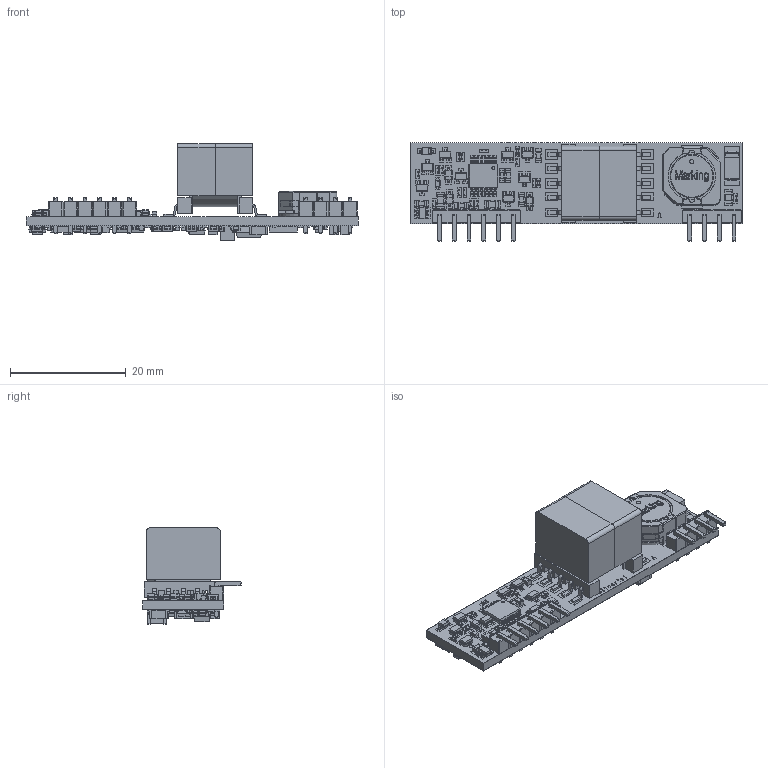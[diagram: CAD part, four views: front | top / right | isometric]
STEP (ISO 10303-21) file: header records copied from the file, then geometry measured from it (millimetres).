
FILE_DESCRIPTION(('FreeCAD Model'),'2;1');
FILE_NAME('Open CASCADE Shape Model','2026-04-21T13:01:30',(''),(''), 'Open CASCADE STEP processor 7.8','FreeCAD','Unknown');
FILE_SCHEMA(('AUTOMOTIVE_DESIGN { 1 0 10303 214 1 1 1 1 }'));
Products named in the file (1): Ag5400_detailed
Bounding box: 57.28 x 17 x 16.63 mm (x, y, z)
Volume: 2135.2 mm3; surface area: 9102 mm2
Topology: 79 solids, 153 shells, 8148 faces, 21553 edges, 13776 vertices
Faces by surface type: extrusion 5344, revolution 1801, bspline 1003
Entity records: 265102 total; most frequent: CARTESIAN_POINT 50748, ORIENTED_EDGE 43082, DIRECTION 38097, VECTOR 29082, LINE 23738, EDGE_CURVE 21541, VERTEX_POINT 13776, FACE_BOUND 9057
